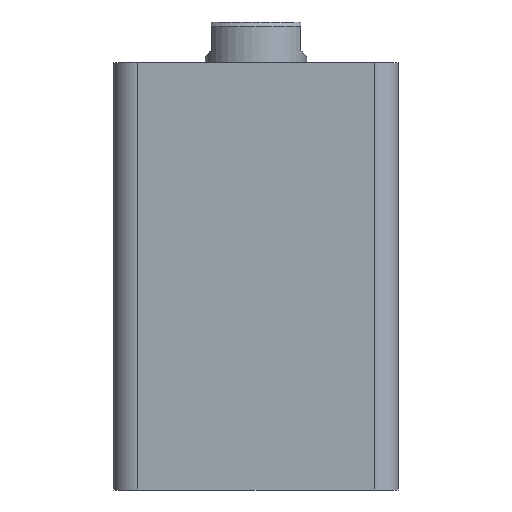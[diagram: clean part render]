
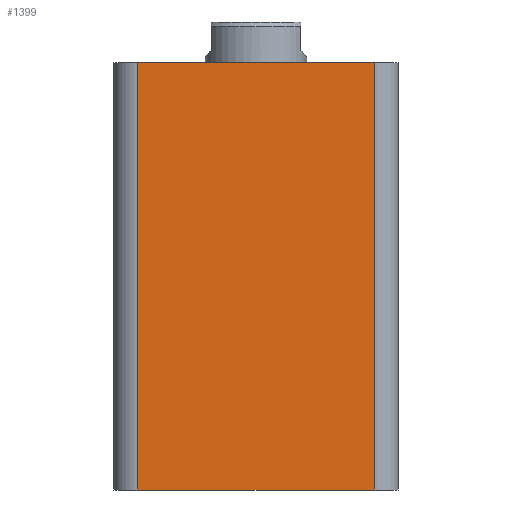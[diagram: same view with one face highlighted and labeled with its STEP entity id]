
A CAD part, front view. The second image highlights one B-rep face of the part: STEP entity #1399.
In plain terms, the highlighted planar face has unit normal (0, -1, 0).
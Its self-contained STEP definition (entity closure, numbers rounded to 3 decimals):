
#179 = FACE_OUTER_BOUND ( 'NONE', #1047, .T. ) ;
#254 = VECTOR ( 'NONE', #2578, 1000. ) ;
#256 = VECTOR ( 'NONE', #2580, 1000. ) ;
#257 = LINE ( 'NONE', #2579, #254 ) ;
#258 = VECTOR ( 'NONE', #2588, 1000. ) ;
#259 = LINE ( 'NONE', #2581, #256 ) ;
#261 = VECTOR ( 'NONE', #2600, 1000. ) ;
#262 = LINE ( 'NONE', #2585, #258 ) ;
#264 = LINE ( 'NONE', #2592, #261 ) ;
#677 = AXIS2_PLACEMENT_3D ( 'NONE', #2469, #2463, #2462 ) ;
#786 = EDGE_CURVE ( 'NONE', #1210, #1206, #264, .T. ) ;
#788 = EDGE_CURVE ( 'NONE', #1209, #1210, #262, .T. ) ;
#789 = EDGE_CURVE ( 'NONE', #1242, #1209, #259, .T. ) ;
#790 = EDGE_CURVE ( 'NONE', #1242, #1206, #257, .T. ) ;
#1047 = EDGE_LOOP ( 'NONE', ( #1953, #1956, #1957, #1958 ) ) ;
#1206 = VERTEX_POINT ( 'NONE', #2567 ) ;
#1209 = VERTEX_POINT ( 'NONE', #2560 ) ;
#1210 = VERTEX_POINT ( 'NONE', #2559 ) ;
#1242 = VERTEX_POINT ( 'NONE', #2525 ) ;
#1399 = ADVANCED_FACE ( 'NONE', ( #179 ), #2465, .F. ) ;
#1953 = ORIENTED_EDGE ( 'NONE', *, *, #790, .F. ) ;
#1956 = ORIENTED_EDGE ( 'NONE', *, *, #789, .T. ) ;
#1957 = ORIENTED_EDGE ( 'NONE', *, *, #788, .T. ) ;
#1958 = ORIENTED_EDGE ( 'NONE', *, *, #786, .T. ) ;
#2462 = DIRECTION ( 'NONE',  ( 0., 0., 1. ) ) ;
#2463 = DIRECTION ( 'NONE',  ( 0., 1., 0. ) ) ;
#2465 = PLANE ( 'NONE',  #677 ) ;
#2469 = CARTESIAN_POINT ( 'NONE',  ( -35., -35., 105. ) ) ;
#2525 = CARTESIAN_POINT ( 'NONE',  ( -29., -35., 105. ) ) ;
#2559 = CARTESIAN_POINT ( 'NONE',  ( 29., -35., 0. ) ) ;
#2560 = CARTESIAN_POINT ( 'NONE',  ( -29., -35., 0. ) ) ;
#2567 = CARTESIAN_POINT ( 'NONE',  ( 29., -35., 105. ) ) ;
#2578 = DIRECTION ( 'NONE',  ( 1., 0., 0. ) ) ;
#2579 = CARTESIAN_POINT ( 'NONE',  ( -35., -35., 105. ) ) ;
#2580 = DIRECTION ( 'NONE',  ( 0., 0., -1. ) ) ;
#2581 = CARTESIAN_POINT ( 'NONE',  ( -29., -35., 105. ) ) ;
#2585 = CARTESIAN_POINT ( 'NONE',  ( -35., -35., 0. ) ) ;
#2588 = DIRECTION ( 'NONE',  ( 1., 0., 0. ) ) ;
#2592 = CARTESIAN_POINT ( 'NONE',  ( 29., -35., 105. ) ) ;
#2600 = DIRECTION ( 'NONE',  ( 0., 0., 1. ) ) ;
